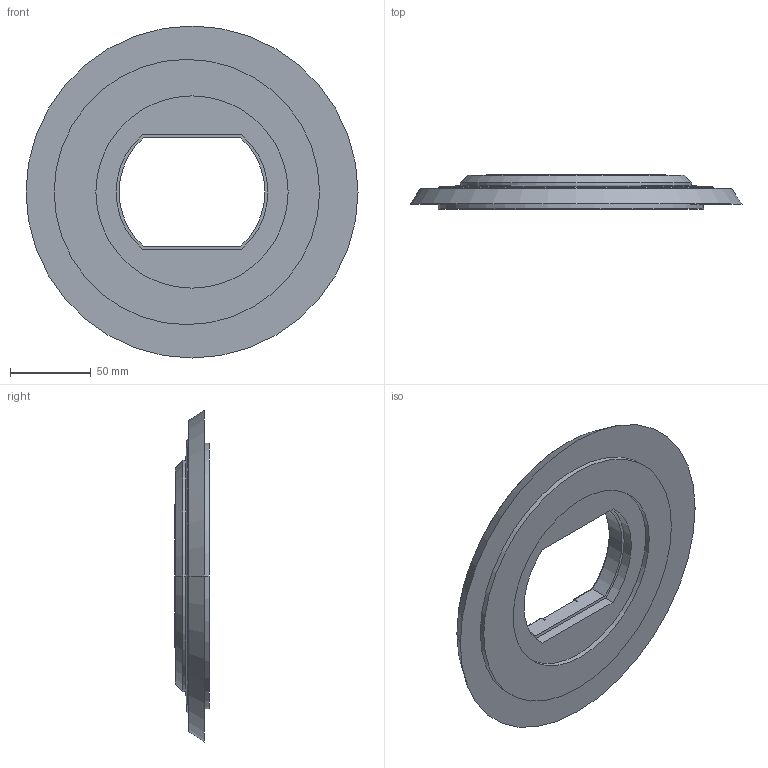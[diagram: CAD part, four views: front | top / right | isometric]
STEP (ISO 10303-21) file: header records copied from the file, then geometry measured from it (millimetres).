
FILE_DESCRIPTION(/* description */ ('STEP AP242 Edition 2','CAx-IF Rec.Pracs.---Representation and Presentation of Product Manufacturing Information (PMI)---4.0---2014-10-13','CAx-IF Rec.Pracs.---3D Tessellated Geometry---0.4---2014-09-14','2;1','CAx-IF Rec.Pracs.---User Defined Attributes---1.5---2016-08-15'),/* implementation_level */ '2;1');
FILE_NAME(/* name */ 'energy_shield_grenade - Part 2',/* time_stamp */ '2026-02-18T00:38:34Z',/* author */ (''),/* organization */ (''),/* preprocessor_version */ 'ST-DEVELOPER v20',/* originating_system */ 'ONSHAPE BY PTC INC, 1.210',/* authorisation */ ' ');
FILE_SCHEMA (('AP242_MANAGED_MODEL_BASED_3D_ENGINEERING_MIM_LF { 1 0 10303 442 3 1 4 }'));
Length unit declared in the file: metre
Products named in the file (1): Part 2
Bounding box: 205.02 x 21.13 x 205.02 mm (x, y, z)
Volume: 364106.9 mm3; surface area: 68505.5 mm2
Topology: 1 solids, 1 shells, 95 faces, 236 edges, 146 vertices
Faces by surface type: bspline 95
Entity records: 3632 total; most frequent: CARTESIAN_POINT 1773, ORIENTED_EDGE 464, DIRECTION 238, EDGE_CURVE 232, VERTEX_POINT 146, LINE 110, VECTOR 110, EDGE_LOOP 104
